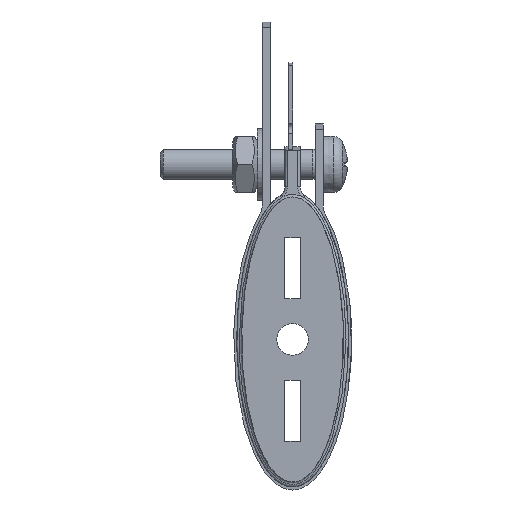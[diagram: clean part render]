
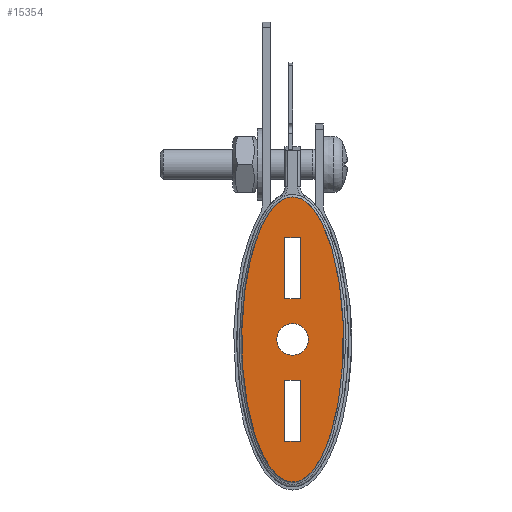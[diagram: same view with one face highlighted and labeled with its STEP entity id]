
A CAD part, front view. The second image highlights one B-rep face of the part: STEP entity #15354.
In plain terms, the highlighted planar face has unit normal (0, -1, 0).
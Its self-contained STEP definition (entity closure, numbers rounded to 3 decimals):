
#192=ELLIPSE($,#15964,14.,5.);
#1922=LINE($,#27712,#3180);
#1924=LINE($,#27717,#3182);
#1925=LINE($,#27719,#3183);
#1926=LINE($,#27721,#3184);
#1927=LINE($,#27722,#3185);
#1928=LINE($,#27724,#3186);
#1929=LINE($,#27726,#3187);
#1930=LINE($,#27727,#3188);
#3180=VECTOR($,#20613,6.);
#3182=VECTOR($,#20617,1.55);
#3183=VECTOR($,#20618,6.);
#3184=VECTOR($,#20619,1.55);
#3185=VECTOR($,#20620,6.);
#3186=VECTOR($,#20621,1.55);
#3187=VECTOR($,#20622,1.55);
#3188=VECTOR($,#20623,6.);
#4202=FACE_OUTER_BOUND($,#5312,.T.);
#4264=FACE_BOUND($,#5313,.T.);
#4265=FACE_BOUND($,#5314,.T.);
#4266=FACE_BOUND($,#5315,.T.);
#5312=EDGE_LOOP($,(#12427));
#5313=EDGE_LOOP($,(#12428));
#5314=EDGE_LOOP($,(#12429,#12430,#12431,#12432));
#5315=EDGE_LOOP($,(#12433,#12434,#12435,#12436));
#5530=CIRCLE($,#16698,1.55);
#6379=VERTEX_POINT($,#23645);
#6711=VERTEX_POINT($,#27703);
#6714=VERTEX_POINT($,#27709);
#6715=VERTEX_POINT($,#27711);
#6716=VERTEX_POINT($,#27715);
#6717=VERTEX_POINT($,#27716);
#6718=VERTEX_POINT($,#27718);
#6719=VERTEX_POINT($,#27720);
#6720=VERTEX_POINT($,#27723);
#6721=VERTEX_POINT($,#27725);
#7844=EDGE_CURVE($,#6379,#6379,#192,.T.);
#8627=EDGE_CURVE($,#6711,#6711,#5530,.T.);
#8630=EDGE_CURVE($,#6715,#6714,#1922,.T.);
#8632=EDGE_CURVE($,#6716,#6717,#1924,.T.);
#8633=EDGE_CURVE($,#6717,#6718,#1925,.T.);
#8634=EDGE_CURVE($,#6718,#6719,#1926,.T.);
#8635=EDGE_CURVE($,#6719,#6716,#1927,.T.);
#8636=EDGE_CURVE($,#6720,#6715,#1928,.T.);
#8637=EDGE_CURVE($,#6714,#6721,#1929,.T.);
#8638=EDGE_CURVE($,#6721,#6720,#1930,.T.);
#12427=ORIENTED_EDGE($,*,*,#7844,.T.);
#12428=ORIENTED_EDGE($,*,*,#8627,.T.);
#12429=ORIENTED_EDGE($,*,*,#8632,.T.);
#12430=ORIENTED_EDGE($,*,*,#8633,.T.);
#12431=ORIENTED_EDGE($,*,*,#8634,.T.);
#12432=ORIENTED_EDGE($,*,*,#8635,.T.);
#12433=ORIENTED_EDGE($,*,*,#8636,.T.);
#12434=ORIENTED_EDGE($,*,*,#8630,.T.);
#12435=ORIENTED_EDGE($,*,*,#8637,.T.);
#12436=ORIENTED_EDGE($,*,*,#8638,.T.);
#13462=PLANE($,#16700);
#15354=ADVANCED_FACE($,(#4202,#4264,#4265,#4266),#13462,.T.);
#15964=AXIS2_PLACEMENT_3D($,#23648,#18709,#18710);
#16698=AXIS2_PLACEMENT_3D($,#27704,#20607,#20608);
#16700=AXIS2_PLACEMENT_3D($,#27714,#20615,#20616);
#18709=DIRECTION('center_axis',(0.,-1.,0.));
#18710=DIRECTION('ref_axis',(0.,0.,
-1.));
#20607=DIRECTION('center_axis',(0.,1.,0.));
#20608=DIRECTION('ref_axis',(1.,0.,0.));
#20613=DIRECTION($,(0.,0.,1.));
#20615=DIRECTION('center_axis',(0.,-1.,0.));
#20616=DIRECTION('ref_axis',(0.,0.,-1.));
#20617=DIRECTION($,(1.,0.,0.));
#20618=DIRECTION($,(0.,0.,-1.));
#20619=DIRECTION($,(-1.,0.,0.));
#20620=DIRECTION($,(0.,0.,1.));
#20621=DIRECTION($,(-1.,0.,0.));
#20622=DIRECTION($,(1.,0.,0.));
#20623=DIRECTION($,(0.,0.,-1.));
#23645=CARTESIAN_POINT('',(0.,0.,
14.));
#23648=CARTESIAN_POINT('Origin',(0.,0.,0.));
#27703=CARTESIAN_POINT('',(-1.55,0.,0.));
#27704=CARTESIAN_POINT('Origin',(0.,0.,0.));
#27709=CARTESIAN_POINT('',(-0.775,0.,10.));
#27711=CARTESIAN_POINT('',(-0.775,0.,4.));
#27712=CARTESIAN_POINT($,(-0.775,0.,5.));
#27714=CARTESIAN_POINT('Origin',(0.,0.,0.));
#27715=CARTESIAN_POINT('',(-0.775,0.,-4.));
#27716=CARTESIAN_POINT('',(0.775,0.,-4.));
#27717=CARTESIAN_POINT($,(0.,0.,-4.));
#27718=CARTESIAN_POINT('',(0.775,0.,-10.));
#27719=CARTESIAN_POINT($,(0.775,0.,-5.));
#27720=CARTESIAN_POINT('',(-0.775,0.,-10.));
#27721=CARTESIAN_POINT($,(-0.388,0.,-10.));
#27722=CARTESIAN_POINT($,(-0.775,0.,-2.));
#27723=CARTESIAN_POINT('',(0.775,0.,4.));
#27724=CARTESIAN_POINT($,(0.,0.,4.));
#27725=CARTESIAN_POINT('',(0.775,0.,10.));
#27726=CARTESIAN_POINT($,(0.388,0.,10.));
#27727=CARTESIAN_POINT($,(0.775,0.,2.));
